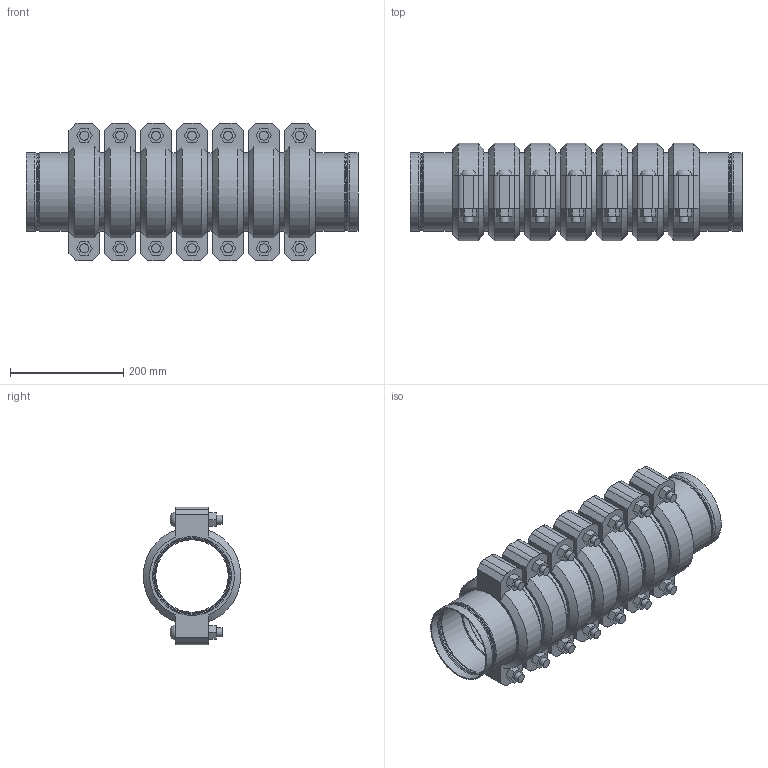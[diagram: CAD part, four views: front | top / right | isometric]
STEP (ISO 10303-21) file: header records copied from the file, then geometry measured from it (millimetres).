
FILE_DESCRIPTION(/* description */ ('VIC STRENGTHIN 100 EXPANSION JOINT 7 COUPLINGS NEUTRAL STYLE E155 (ST1)','CAx-IF Rec.Pracs.---Representation and Presentation of Product Manufacturing Information (PMI)---4.0---2014-10-13'),/* implementation_level */ '2;1');
FILE_NAME(/* name */ 'C:\Users\Vjadhav\AppData\Roaming\Autodesk\ApplicationPlugins\Victaulic.Temp\A857\Victaulic_SS-StrengThin 100_Expansion Joint_Neutral_7 Couplings_Style E155 (ST1)_7 Coup_Neut_05.0 (139.7) (125).stp',/* time_stamp */ '2021-07-20T17:49:57+05:00',/* author */ ('kkamble'),/* organization */ ('Victaulic'),/* preprocessor_version */ 'ST-DEVELOPER v17.2',/* originating_system */ 'Autodesk Inventor 2019',/* authorisation */ '');
FILE_SCHEMA (('AP242_MANAGED_MODEL_BASED_3D_ENGINEERING_MIM_LF { 1 0 10303 442 1 1 4 }'));
Length unit declared in the file: inch
Products named in the file (4): E155-05.0 (139.7); E494G-05.0 (139.7); Nipple-05.0 (139.7); 075-05.0 (139.7)
Assembly tree (15 placements, depth 2):
  E155-05.0 (139.7)
    E494G-05.0 (139.7)  x2
    Nipple-05.0 (139.7)  x6
    075-05.0 (139.7)  x7
Bounding box: 587.5 x 172.14 x 243.59 mm (x, y, z)
Volume: 5399542 mm3; surface area: 1230310 mm2
Topology: 15 solids, 29 shells, 539 faces, 1333 edges, 940 vertices
Faces by surface type: plane 300, cylinder 161, torus 32, cone 32, bspline 14
Full cylindrical faces by diameter (mm): 15.875 x28, 17.424 x14, 128.194 x6, 130.505 x2, 131.47 x2, 133.35 x7, 134.518 x2, 135.484 x14, 135.687 x6, 139.7 x38
Entity records: 3782 total; most frequent: DIRECTION 673, CARTESIAN_POINT 661, ORIENTED_EDGE 548, AXIS2_PLACEMENT_3D 287, EDGE_CURVE 274, VERTEX_POINT 197, CIRCLE 167, EDGE_LOOP 129
